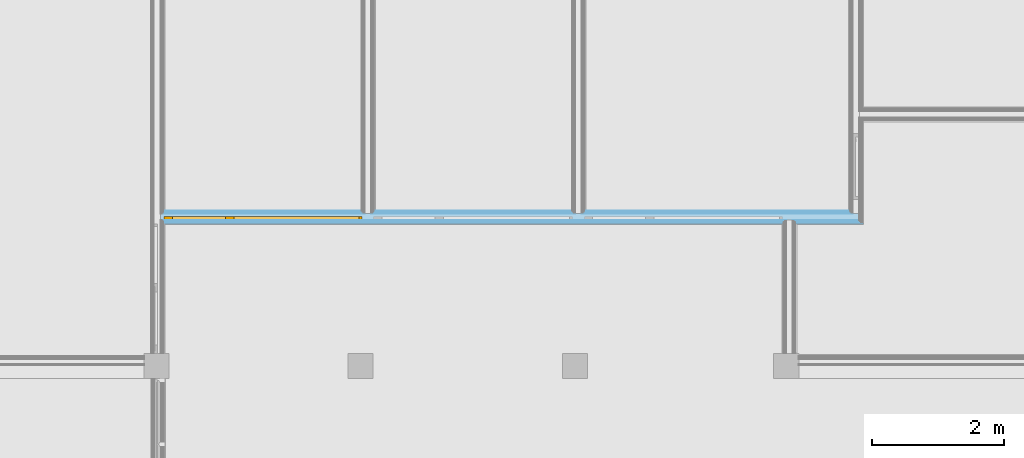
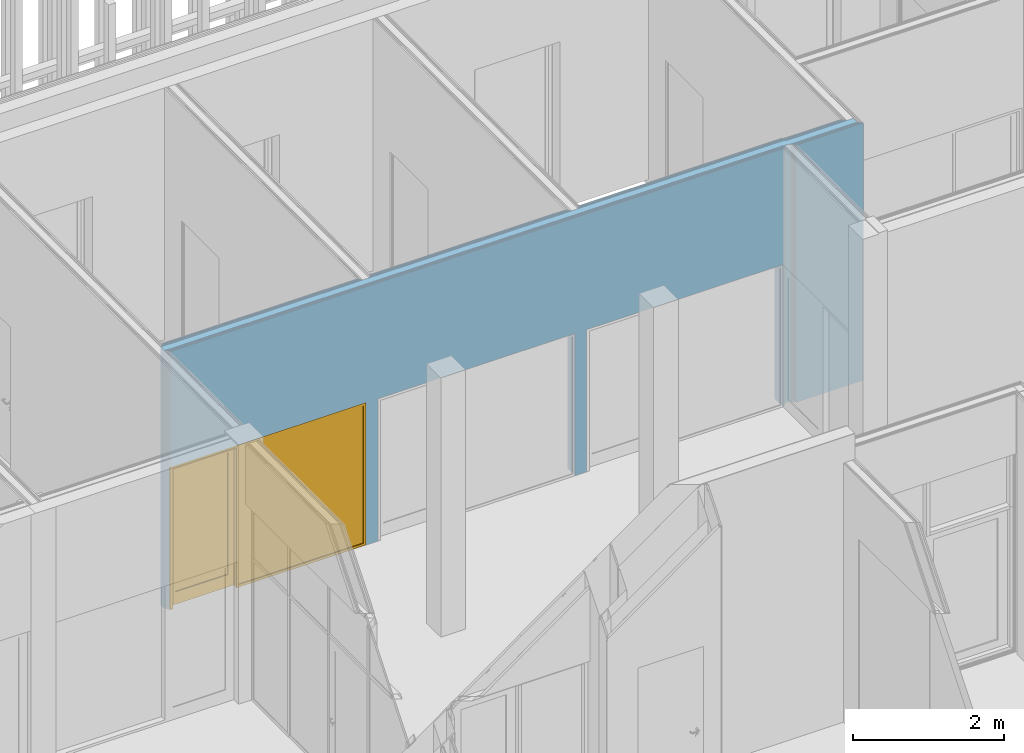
# One storey, part 218 of 260: 1 door, 3 openings, 1 element without a shape of its own, plus 9 elements that do not belong to this part.
"""IFC2X3 building model written with IfcOpenShell, lengths in millimetres."""

from ifc_helpers import new_model, entity, si_unit, converted_unit, derived_unit, money_unit, direction, frame, origin_with_axes, place, context, subcontext, project, spatial, open_shell, faceted_brep, surface_model, material, type_object, element, fill, aggregate, save


model = new_model("IFC2X3")

# Units and contexts
model_context = context("Model", 3, precision=0.01, world=origin_with_axes(), true_north=direction((0.0, 1.0)))
body_context = subcontext(model_context, "Body", "Model", "MODEL_VIEW")
ifc_project = project(units=[si_unit("LENGTHUNIT", "METRE", prefix="MILLI"), si_unit("AREAUNIT", "SQUARE_METRE"), si_unit("VOLUMEUNIT", "CUBIC_METRE"), converted_unit("PLANEANGLEUNIT", "DEGREE", entity("IfcPlaneAngleMeasure", 0.0174532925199), si_unit("PLANEANGLEUNIT", "RADIAN"), dimensions=[0, 0, 0, 0, 0, 0, 0]), money_unit("EUR"), converted_unit("TIMEUNIT", "Year", entity("IfcTimeMeasure", 31556926.0), si_unit("TIMEUNIT", "SECOND"), dimensions=[0, 0, 1, 0, 0, 0, 0]), si_unit("MASSUNIT", "GRAM", prefix="KILO"), si_unit("THERMODYNAMICTEMPERATUREUNIT", "DEGREE_CELSIUS"), si_unit("LUMINOUSINTENSITYUNIT", "LUMEN"), si_unit("ENERGYUNIT", "JOULE", prefix="MEGA"), derived_unit("THERMALCONDUCTANCEUNIT", [(si_unit("POWERUNIT", "WATT"), 1), (si_unit("LENGTHUNIT", "METRE"), -1), (si_unit("THERMODYNAMICTEMPERATUREUNIT", "KELVIN"), -1)]), derived_unit("SPECIFICHEATCAPACITYUNIT", [(si_unit("ENERGYUNIT", "JOULE"), 1), (si_unit("MASSUNIT", "GRAM", prefix="KILO"), -1), (si_unit("THERMODYNAMICTEMPERATUREUNIT", "KELVIN"), -1)]), derived_unit("MASSDENSITYUNIT", [(si_unit("MASSUNIT", "GRAM", prefix="KILO"), 1), (si_unit("VOLUMEUNIT", "CUBIC_METRE"), -1)])], contexts=[model_context])

# Site, building, storey
site_placement = place(None, origin_with_axes())
site = spatial("IfcSite", under=ifc_project, at=site_placement, Name="Kolde pst 67a", CompositionType="ELEMENT")
building_placement = place(site_placement, origin_with_axes())
building = spatial("IfcBuilding", under=site, at=building_placement, Name="Riigigümnaasium", CompositionType="ELEMENT")
storey_placement = place(building_placement, origin_with_axes())
storey = spatial("IfcBuildingStorey", under=building, at=storey_placement, Name="1. korrus", CompositionType="ELEMENT", Elevation=0.0)

# Door
door_style = type_object("IfcDoorStyle", Name="Door with Sidelight on Side 2 25", ConstructionType="NOTDEFINED", OperationType="SINGLE_SWING_LEFT", ParameterTakesPrecedence=False, Sizeable=False)
wall_placement = place(storey_placement, frame((66950.0301551, 30929.9996719, 0.0), z_axis=(0.0, 0.0, 1.0), x_axis=(1.0, 0.0, 0.0)))
opening_3_placement = place(wall_placement, frame((1712.0911448, 0.0, 0.0), z_axis=(0.0, 0.0, 1.0), x_axis=(1.0, 0.0, 0.0)))
door_placement = place(opening_3_placement, frame((-1498.09113464, 0.0, 0.0), z_axis=(0.0, 0.0, 1.0), x_axis=(1.0, 0.0, 0.0)))
door = element("IfcDoor", 1, at=door_placement, inside=storey, type_object=door_style, Name="Siseuks", ObjectType="DOOR", OverallHeight=2300.0, OverallWidth=2996.18, context=body_context, shape_type="SurfaceModel", body=[
    faceted_brep([(2996.18226927, 115.0, 0.0), (2996.18226927, 0.0, 0.0), (2956.18226927, 0.0, 0.0), (2956.18226927, 115.0, 0.0), (2996.18226927, 115.0, 2260.0), (2996.18226927, 0.0, 2260.0), (2956.18226927, 0.0, 2260.0), (2956.18226927, 0.0, 40.0), (2956.18226927, 115.0, 40.0), (2956.18226927, 115.0, 2260.0)], [[[0, 1, 2, 3]], [[4, 5, 1, 0]], [[1, 5, 6, 7, 2]], [[3, 2, 7, 8]], [[0, 3, 8, 9, 4]], [[9, 6, 5, 4]], [[8, 7, 6, 9]]]),
    faceted_brep([(1016.0, 75.0, 0.0), (1016.0, 0.0, 0.0), (1016.0, 0.0, 2260.0), (1016.0, 75.0, 2260.0), (1028.0, 75.0, 0.0), (1028.0, 115.0, 0.0), (1056.0, 115.0, 0.0), (1056.0, 0.0, 0.0), (1056.0, 0.0, 40.0), (1056.0, 0.0, 2260.0), (1028.0, 75.0, 2260.0), (1056.0, 115.0, 2260.0), (1028.0, 115.0, 2260.0), (1056.0, 115.0, 40.0)], [[[0, 1, 2, 3]], [[4, 5, 6, 7, 1, 0]], [[7, 8, 9, 2, 1]], [[10, 3, 2, 9, 11, 12]], [[10, 4, 0, 3]], [[12, 5, 4, 10]], [[12, 11, 13, 6, 5]], [[6, 13, 8, 7]], [[13, 11, 9, 8]]]),
    faceted_brep([(2956.18226927, 115.0, 40.0), (2956.18226927, 0.0, 40.0), (2956.18226927, 0.0, 0.0), (2956.18226927, 115.0, 0.0), (1056.0, 115.0, 40.0), (1056.0, 0.0, 40.0), (1056.0, 0.0, 0.0), (1056.0, 115.0, 0.0)], [[[0, 1, 2, 3]], [[4, 5, 1, 0]], [[1, 5, 6, 2]], [[3, 2, 6, 7]], [[0, 3, 7, 4]], [[7, 6, 5, 4]]]),
    faceted_brep([(28.0, 75.0, 2260.0), (28.0, 115.0, 2260.0), (0.0, 115.0, 2260.0), (0.0, 0.0, 2260.0), (40.0, 0.0, 2260.0), (40.0, 75.0, 2260.0), (28.0, 75.0, 0.0), (28.0, 115.0, 0.0), (0.0, 115.0, 0.0), (0.0, 0.0, 0.0), (40.0, 0.0, 0.0), (40.0, 75.0, 0.0)], [[[0, 1, 2, 3, 4, 5]], [[0, 6, 7, 1]], [[7, 8, 2, 1]], [[2, 8, 9, 3]], [[3, 9, 10, 4]], [[5, 4, 10, 11]], [[5, 11, 6, 0]], [[6, 11, 10, 9, 8, 7]]]),
    faceted_brep([(1028.0, 115.0, 2272.0), (28.0, 115.0, 2272.0), (28.0, 115.0, 2260.0), (0.0, 115.0, 2260.0), (0.0, 115.0, 2300.0), (2996.18226927, 115.0, 2300.0), (2996.18226927, 115.0, 2260.0), (2956.18226927, 115.0, 2260.0), (1056.0, 115.0, 2260.0), (1028.0, 115.0, 2260.0), (1028.0, 75.0, 2272.0), (28.0, 75.0, 2272.0), (28.0, 75.0, 2260.0), (40.0, 75.0, 2260.0), (40.0, 0.0, 2260.0), (0.0, 0.0, 2260.0), (0.0, 0.0, 2300.0), (2996.18226927, 0.0, 2300.0), (2996.18226927, 0.0, 2260.0), (2956.18226927, 0.0, 2260.0), (1056.0, 0.0, 2260.0), (1028.0, 75.0, 2260.0), (1016.0, 0.0, 2260.0)], [[[0, 1, 2, 3, 4, 5, 6, 7, 8, 9]], [[0, 10, 11, 1]], [[1, 11, 12, 2]], [[12, 13, 14, 15, 3, 2]], [[4, 3, 15, 16]], [[5, 4, 16, 17]], [[6, 5, 17, 18]], [[7, 6, 18, 19]], [[8, 7, 19, 20]], [[21, 9, 8, 20, 22, 14, 13]], [[9, 21, 10, 0]], [[12, 11, 10, 21, 13]], [[14, 22, 20, 19, 18, 17, 16, 15]]]),
    faceted_brep([(28.0, 115.0, 200.0), (128.0, 115.0, 200.0), (128.0, 75.0, 200.0), (28.0, 75.0, 200.0), (28.0, 115.0, 2172.0), (128.0, 115.0, 2172.0), (128.0, 75.0, 2172.0), (28.0, 75.0, 2172.0)], [[[0, 1, 2, 3]], [[0, 4, 5, 1]], [[1, 5, 6, 2]], [[3, 2, 6, 7]], [[4, 0, 3, 7]], [[5, 4, 7, 6]]]),
    faceted_brep([(1028.0, 115.0, 200.0), (1028.0, 115.0, 2172.0), (1028.0, 75.0, 2172.0), (1028.0, 75.0, 200.0), (928.0, 115.0, 200.0), (928.0, 115.0, 2172.0), (928.0, 75.0, 2172.0), (928.0, 75.0, 200.0)], [[[0, 1, 2, 3]], [[0, 4, 5, 1]], [[1, 5, 6, 2]], [[3, 2, 6, 7]], [[4, 0, 3, 7]], [[5, 4, 7, 6]]]),
    faceted_brep([(28.0, 115.0, 0.0), (1028.0, 115.0, 0.0), (1028.0, 75.0, 0.0), (28.0, 75.0, 0.0), (28.0, 115.0, 200.0), (128.0, 115.0, 200.0), (928.0, 115.0, 200.0), (1028.0, 115.0, 200.0), (1028.0, 75.0, 200.0), (928.0, 75.0, 200.0), (128.0, 75.0, 200.0), (28.0, 75.0, 200.0)], [[[0, 1, 2, 3]], [[0, 4, 5, 6, 7, 1]], [[1, 7, 8, 2]], [[3, 2, 8, 9, 10, 11]], [[4, 0, 3, 11]], [[5, 4, 11, 10]], [[6, 5, 10, 9]], [[7, 6, 9, 8]]]),
    faceted_brep([(28.0, 115.0, 2272.0), (28.0, 115.0, 2172.0), (28.0, 75.0, 2172.0), (28.0, 75.0, 2272.0), (1028.0, 115.0, 2272.0), (1028.0, 115.0, 2172.0), (928.0, 115.0, 2172.0), (128.0, 115.0, 2172.0), (128.0, 75.0, 2172.0), (928.0, 75.0, 2172.0), (1028.0, 75.0, 2172.0), (1028.0, 75.0, 2272.0)], [[[0, 1, 2, 3]], [[0, 4, 5, 6, 7, 1]], [[1, 7, 8, 2]], [[3, 2, 8, 9, 10, 11]], [[4, 0, 3, 11]], [[5, 4, 11, 10]], [[6, 5, 10, 9]], [[7, 6, 9, 8]]]),
    surface_model("IfcShellBasedSurfaceModel", [(128.0, 101.0, 200.0), (128.0, 101.0, 2172.0), (928.0, 101.0, 2172.0), (928.0, 101.0, 200.0)], [open_shell([[[0, 1, 2, 3]]])]),
    surface_model("IfcShellBasedSurfaceModel", [(128.0, 89.0, 200.0), (928.0, 89.0, 200.0), (928.0, 89.0, 2172.0), (128.0, 89.0, 2172.0)], [open_shell([[[0, 1, 2, 3]]])]),
    surface_model("IfcShellBasedSurfaceModel", [(2956.18226927, 24.0, 40.0), (1056.0, 24.0, 40.0), (1056.0, 24.0, 2260.0), (2956.18226927, 24.0, 2260.0)], [open_shell([[[0, 1, 2, 3]]])]),
    surface_model("IfcShellBasedSurfaceModel", [(2956.18226927, 12.0, 40.0), (2956.18226927, 12.0, 2260.0), (1056.0, 12.0, 2260.0), (1056.0, 12.0, 40.0)], [open_shell([[[0, 1, 2, 3]]])]),
])

# Wall, openings
wall_type = type_object("IfcWallType", Name="SS-PK-10/1_vill100+2dold 220", PredefinedType="NOTDEFINED")
wall = element("IfcWall", 2, at=wall_placement, inside=storey, type_object=wall_type, Name="Sisesein")
opening_1_placement = place(wall_placement, frame((8079.97064144, 0.0, 0.0), z_axis=(0.0, 0.0, 1.0), x_axis=(1.0, 0.0, 0.0)))
element("IfcOpeningElement", 3, at=opening_1_placement, cuts=wall, Name="Siseuks", context=body_context, shape_type="Brep", body=[
    faceted_brep([(-1500.0012665, -440.0, 0.0), (-1500.0012665, -440.0, 2300.0), (-1500.0012665, 220.0, 2300.0), (-1500.0012665, 220.0, 0.0), (1500.0012665, -440.0, 0.0), (1500.0012665, -440.0, 2300.0), (1500.0012665, 220.0, 2300.0), (1500.0012665, 220.0, 0.0)], [[[0, 1, 2, 3]], [[0, 4, 5, 1]], [[1, 5, 6, 2]], [[3, 2, 6, 7]], [[4, 0, 3, 7]], [[5, 4, 7, 6]]]),
])
opening_2_placement = place(wall_placement, frame((4894.50544559, 0.0, 0.0), z_axis=(0.0, 0.0, 1.0), x_axis=(1.0, 0.0, 0.0)))
element("IfcOpeningElement", 4, at=opening_2_placement, cuts=wall, Name="Siseuks", context=body_context, shape_type="Brep", body=[
    faceted_brep([(-1505.46392935, -440.0, 0.0), (-1505.46392935, -440.0, 2300.0), (-1505.46392935, 220.0, 2300.0), (-1505.46392935, 220.0, 0.0), (1505.46392935, -440.0, 0.0), (1505.46392935, -440.0, 2300.0), (1505.46392935, 220.0, 2300.0), (1505.46392935, 220.0, 0.0)], [[[0, 1, 2, 3]], [[0, 4, 5, 1]], [[1, 5, 6, 2]], [[3, 2, 6, 7]], [[4, 0, 3, 7]], [[5, 4, 7, 6]]]),
])
opening_3 = element("IfcOpeningElement", 5, at=opening_3_placement, cuts=wall, Name="Siseuks", context=body_context, shape_type="Brep", body=[
    faceted_brep([(-1498.09113464, -440.0, 0.0), (-1498.09113464, -440.0, 2300.0), (-1498.09113464, 220.0, 2300.0), (-1498.09113464, 220.0, 0.0), (1498.09113464, -440.0, 0.0), (1498.09113464, -440.0, 2300.0), (1498.09113464, 220.0, 2300.0), (1498.09113464, 220.0, 0.0)], [[[0, 1, 2, 3]], [[0, 4, 5, 1]], [[1, 5, 6, 2]], [[3, 2, 6, 7]], [[4, 0, 3, 7]], [[5, 4, 7, 6]]]),
])

fill(opening_3, door)

# Building element part
ifc_material_1 = material(Name="_VIIMISTLUSKIHT - Dold plaat vastavalt SA osale")
building_element_part_1_placement = place(wall_placement, origin_with_axes())
building_element_part_1 = element("IfcBuildingElementPart", 6, at=building_element_part_1_placement, material=ifc_material_1, Name="_VIIMISTLUSKIHT - Dold plaat vastavalt SA osale", context=body_context, shape_type="Brep", body=[
    faceted_brep([(3210.18227943, 200.0, 2300.0), (3210.18227943, 220.0, 2300.0), (3210.18227943, 220.0, 4170.0), (3210.18227943, 200.0, 4170.0), (220.0, 220.0, 2300.0), (220.0, 200.0, 2300.0), (220.0, 220.0, 4170.0), (220.0, 200.0, 4170.0)], [[[0, 1, 2, 3]], [[4, 1, 0, 5]], [[1, 4, 6, 2]], [[2, 6, 7, 3]], [[5, 0, 3, 7]], [[4, 5, 7, 6]]]),
    faceted_brep([(6399.96937494, 200.0, 2300.0), (6399.96937494, 220.0, 2300.0), (6399.96937494, 220.0, 4170.0), (6399.96937494, 200.0, 4170.0), (3390.18227943, 220.0, 2300.0), (3390.18227943, 200.0, 2300.0), (3390.18227943, 220.0, 4170.0), (3390.18227943, 200.0, 4170.0)], [[[0, 1, 2, 3]], [[4, 1, 0, 5]], [[1, 4, 6, 2]], [[2, 6, 7, 3]], [[5, 0, 3, 7]], [[4, 5, 7, 6]]]),
    faceted_brep([(9579.97190795, 220.0, 2300.0), (6579.96937494, 220.0, 2300.0), (6579.96937494, 220.0, 4170.0), (9699.97190795, 220.0, 4170.0), (9699.97190795, 220.0, 4156.9), (10609.9611433, 220.0, 4156.9), (10609.9611433, 220.0, 0.0), (9579.97190795, 220.0, 0.0), (9579.97190795, 200.0, 2300.0), (6579.96937494, 200.0, 2300.0), (6579.96937494, 200.0, 4170.0), (9699.97190795, 200.0, 4170.0), (9699.97190795, 200.0, 4156.9), (10609.9611433, 200.0, 4156.9), (10609.9611433, 200.0, 0.0), (9579.97190795, 200.0, 0.0)], [[[0, 1, 2, 3, 4, 5, 6, 7]], [[1, 0, 8, 9]], [[1, 9, 10, 2]], [[3, 2, 10, 11]], [[3, 11, 12, 4]], [[5, 4, 12, 13]], [[13, 14, 6, 5]], [[15, 7, 6, 14]], [[0, 7, 15, 8]], [[8, 15, 14, 13, 12, 11, 10, 9]]]),
])

ifc_material_2 = material(Name="_KARKASS - eriprofiilkinnitus vastavalt sisemisele plaatviimistlusele")
building_element_part_2_placement = place(wall_placement, origin_with_axes())
building_element_part_2 = element("IfcBuildingElementPart", 7, at=building_element_part_2_placement, material=ifc_material_2, Name="_KARKASS - eriprofiilkinnitus vastavalt sisemisele plaatviimistlusele", context=body_context, shape_type="Brep", body=[
    faceted_brep([(214.000010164, 200.0, 2300.0), (214.000010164, 200.0, 0.0), (200.0, 200.0, 0.0), (200.0, 200.0, 4170.0), (3220.18227943, 200.0, 4170.0), (3220.18227943, 200.0, 0.0), (3210.18227943, 200.0, 0.0), (3210.18227943, 200.0, 2300.0), (214.000010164, 190.0, 2300.0), (214.000010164, 190.0, 0.0), (200.0, 190.0, 0.0), (200.0, 190.0, 4170.0), (3220.18227943, 190.0, 4170.0), (3220.18227943, 190.0, 0.0), (3210.18227943, 190.0, 0.0), (3210.18227943, 190.0, 2300.0)], [[[0, 1, 2, 3, 4, 5, 6, 7]], [[1, 0, 8, 9]], [[1, 9, 10, 2]], [[3, 2, 10, 11]], [[4, 3, 11, 12]], [[12, 13, 5, 4]], [[14, 6, 5, 13]], [[7, 6, 14, 15]], [[0, 7, 15, 8]], [[15, 14, 13, 12, 11, 10, 9, 8]]]),
    faceted_brep([(3389.04151625, 200.0, 2300.0), (3389.04151625, 200.0, 0.0), (3380.18227943, 200.0, 0.0), (3380.18227943, 200.0, 4170.0), (6409.96937494, 200.0, 4170.0), (6409.96937494, 200.0, 0.0), (6399.96937494, 200.0, 0.0), (6399.96937494, 200.0, 2300.0), (3389.04151625, 190.0, 2300.0), (3389.04151625, 190.0, 0.0), (3380.18227943, 190.0, 0.0), (3380.18227943, 190.0, 4170.0), (6409.96937494, 190.0, 4170.0), (6409.96937494, 190.0, 0.0), (6399.96937494, 190.0, 0.0), (6399.96937494, 190.0, 2300.0)], [[[0, 1, 2, 3, 4, 5, 6, 7]], [[1, 0, 8, 9]], [[1, 9, 10, 2]], [[3, 2, 10, 11]], [[4, 3, 11, 12]], [[12, 13, 5, 4]], [[14, 6, 5, 13]], [[7, 6, 14, 15]], [[0, 7, 15, 8]], [[15, 14, 13, 12, 11, 10, 9, 8]]]),
    faceted_brep([(6579.96937494, 200.0, 2300.0), (6579.96937494, 200.0, 0.0), (6569.96937494, 200.0, 0.0), (6569.96937494, 200.0, 4170.0), (9699.97190795, 200.0, 4170.0), (9699.97190795, 200.0, 4156.9), (10619.9611433, 200.0, 4156.9), (10619.9611433, 200.0, 0.0), (9579.97190795, 200.0, 0.0), (9579.97190795, 200.0, 2300.0), (6579.96937494, 190.0, 2300.0), (6579.96937494, 190.0, 0.0), (6569.96937494, 190.0, 0.0), (6569.96937494, 190.0, 4170.0), (9699.97190795, 190.0, 4170.0), (9699.97190795, 190.0, 4156.9), (10619.9611433, 190.0, 4156.9), (10619.9611433, 190.0, 0.0), (9579.97190795, 190.0, 0.0), (9579.97190795, 190.0, 2300.0)], [[[0, 1, 2, 3, 4, 5, 6, 7, 8, 9]], [[1, 0, 10, 11]], [[1, 11, 12, 2]], [[3, 2, 12, 13]], [[4, 3, 13, 14]], [[4, 14, 15, 5]], [[6, 5, 15, 16]], [[16, 17, 7, 6]], [[18, 8, 7, 17]], [[9, 8, 18, 19]], [[0, 9, 19, 10]], [[19, 18, 17, 16, 15, 14, 13, 12, 11, 10]]]),
])

ifc_material_3 = material(Name="_PLAATMATERJAL - tuletõkkekipsplaat, Knauf Red GKF või samaväärne")
building_element_part_3_placement = place(wall_placement, origin_with_axes())
building_element_part_3 = element("IfcBuildingElementPart", 8, at=building_element_part_3_placement, material=ifc_material_3, Name="_PLAATMATERJAL - tuletõkkekipsplaat, Knauf Red GKF või samaväärne", context=body_context, shape_type="Brep", body=[
    faceted_brep([(214.000010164, 190.0, 2300.0), (214.000010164, 190.0, 0.0), (190.0, 190.0, 0.0), (190.0, 190.0, 4170.0), (3235.18227943, 190.0, 4170.0), (3235.18227943, 190.0, 0.0), (3210.18227943, 190.0, 0.0), (3210.18227943, 190.0, 2300.0), (214.000010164, 175.0, 2300.0), (214.000010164, 175.0, 0.0), (190.0, 175.0, 0.0), (190.0, 175.0, 4170.0), (3235.18227943, 175.0, 4170.0), (3235.18227943, 175.0, 0.0), (3210.18227943, 175.0, 0.0), (3210.18227943, 175.0, 2300.0)], [[[0, 1, 2, 3, 4, 5, 6, 7]], [[1, 0, 8, 9]], [[1, 9, 10, 2]], [[3, 2, 10, 11]], [[4, 3, 11, 12]], [[12, 13, 5, 4]], [[14, 6, 5, 13]], [[7, 6, 14, 15]], [[0, 7, 15, 8]], [[15, 14, 13, 12, 11, 10, 9, 8]]]),
    faceted_brep([(3389.04151625, 190.0, 2300.0), (3389.04151625, 190.0, 0.0), (3365.18227943, 190.0, 0.0), (3365.18227943, 190.0, 4170.0), (6424.96937494, 190.0, 4170.0), (6424.96937494, 190.0, 0.0), (6399.96937494, 190.0, 0.0), (6399.96937494, 190.0, 2300.0), (3389.04151625, 175.0, 2300.0), (3389.04151625, 175.0, 0.0), (3365.18227943, 175.0, 0.0), (3365.18227943, 175.0, 4170.0), (6424.96937494, 175.0, 4170.0), (6424.96937494, 175.0, 0.0), (6399.96937494, 175.0, 0.0), (6399.96937494, 175.0, 2300.0)], [[[0, 1, 2, 3, 4, 5, 6, 7]], [[1, 0, 8, 9]], [[1, 9, 10, 2]], [[3, 2, 10, 11]], [[4, 3, 11, 12]], [[12, 13, 5, 4]], [[14, 6, 5, 13]], [[7, 6, 14, 15]], [[0, 7, 15, 8]], [[15, 14, 13, 12, 11, 10, 9, 8]]]),
    faceted_brep([(6579.96937494, 190.0, 2300.0), (6579.96937494, 190.0, 0.0), (6554.96937494, 190.0, 0.0), (6554.96937494, 190.0, 4170.0), (9699.97190795, 190.0, 4170.0), (9699.97190795, 190.0, 4156.9), (10634.9611433, 190.0, 4156.9), (10634.9611433, 190.0, 0.0), (9579.97190795, 190.0, 0.0), (9579.97190795, 190.0, 2300.0), (6579.96937494, 175.0, 2300.0), (6579.96937494, 175.0, 0.0), (6554.96937494, 175.0, 0.0), (6554.96937494, 175.0, 4170.0), (9699.97190795, 175.0, 4170.0), (9699.97190795, 175.0, 4156.9), (10634.9611433, 175.0, 4156.9), (10634.9611433, 175.0, 0.0), (9579.97190795, 175.0, 0.0), (9579.97190795, 175.0, 2300.0)], [[[0, 1, 2, 3, 4, 5, 6, 7, 8, 9]], [[1, 0, 10, 11]], [[1, 11, 12, 2]], [[3, 2, 12, 13]], [[4, 3, 13, 14]], [[4, 14, 15, 5]], [[6, 5, 15, 16]], [[16, 17, 7, 6]], [[18, 8, 7, 17]], [[9, 8, 18, 19]], [[0, 9, 19, 10]], [[19, 18, 17, 16, 15, 14, 13, 12, 11, 10]]]),
])

building_element_part_4_placement = place(wall_placement, origin_with_axes())
building_element_part_4 = element("IfcBuildingElementPart", 9, at=building_element_part_4_placement, material=ifc_material_3, Name="_PLAATMATERJAL - tuletõkkekipsplaat, Knauf Red GKF või samaväärne", context=body_context, shape_type="Brep", body=[
    faceted_brep([(214.000010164, 175.0, 2300.0), (214.000010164, 175.0, 0.0), (175.0, 175.0, 0.0), (175.0, 175.0, 4170.0), (3250.18227943, 175.0, 4170.0), (3250.18227943, 175.0, 0.0), (3210.18227943, 175.0, 0.0), (3210.18227943, 175.0, 2300.0), (214.000010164, 160.0, 2300.0), (214.000010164, 160.0, 0.0), (175.0, 160.0, 0.0), (175.0, 160.0, 4170.0), (3250.18227943, 160.0, 4170.0), (3250.18227943, 160.0, 0.0), (3210.18227943, 160.0, 0.0), (3210.18227943, 160.0, 2300.0)], [[[0, 1, 2, 3, 4, 5, 6, 7]], [[1, 0, 8, 9]], [[1, 9, 10, 2]], [[3, 2, 10, 11]], [[4, 3, 11, 12]], [[12, 13, 5, 4]], [[14, 6, 5, 13]], [[7, 6, 14, 15]], [[0, 7, 15, 8]], [[15, 14, 13, 12, 11, 10, 9, 8]]]),
    faceted_brep([(3389.04151625, 175.0, 2300.0), (3389.04151625, 175.0, 0.0), (3350.18227943, 175.0, 0.0), (3350.18227943, 175.0, 4170.0), (6439.96937494, 175.0, 4170.0), (6439.96937494, 175.0, 0.0), (6399.96937494, 175.0, 0.0), (6399.96937494, 175.0, 2300.0), (3389.04151625, 160.0, 2300.0), (3389.04151625, 160.0, 0.0), (3350.18227943, 160.0, 0.0), (3350.18227943, 160.0, 4170.0), (6439.96937494, 160.0, 4170.0), (6439.96937494, 160.0, 0.0), (6399.96937494, 160.0, 0.0), (6399.96937494, 160.0, 2300.0)], [[[0, 1, 2, 3, 4, 5, 6, 7]], [[1, 0, 8, 9]], [[1, 9, 10, 2]], [[3, 2, 10, 11]], [[4, 3, 11, 12]], [[12, 13, 5, 4]], [[14, 6, 5, 13]], [[7, 6, 14, 15]], [[0, 7, 15, 8]], [[15, 14, 13, 12, 11, 10, 9, 8]]]),
    faceted_brep([(6579.96937494, 175.0, 2300.0), (6579.96937494, 175.0, 0.0), (6539.96937494, 175.0, 0.0), (6539.96937494, 175.0, 4170.0), (9699.97190795, 175.0, 4170.0), (9699.97190795, 175.0, 4156.9), (10649.9611433, 175.0, 4156.9), (10649.9611433, 175.0, 0.0), (9579.97190795, 175.0, 0.0), (9579.97190795, 175.0, 2300.0), (6579.96937494, 160.0, 2300.0), (6579.96937494, 160.0, 0.0), (6539.96937494, 160.0, 0.0), (6539.96937494, 160.0, 4170.0), (9699.97190795, 160.0, 4170.0), (9699.97190795, 160.0, 4156.9), (10649.9611433, 160.0, 4156.9), (10649.9611433, 160.0, 0.0), (9579.97190795, 160.0, 0.0), (9579.97190795, 160.0, 2300.0)], [[[0, 1, 2, 3, 4, 5, 6, 7, 8, 9]], [[1, 0, 10, 11]], [[1, 11, 12, 2]], [[3, 2, 12, 13]], [[4, 3, 13, 14]], [[4, 14, 15, 5]], [[6, 5, 15, 16]], [[16, 17, 7, 6]], [[18, 8, 7, 17]], [[9, 8, 18, 19]], [[0, 9, 19, 10]], [[19, 18, 17, 16, 15, 14, 13, 12, 11, 10]]]),
])

ifc_material_4 = material(Name="_KARKASS - puitpruss 100x50mm vertikaalne, samm 600mm, vahel mineraalvill, helineeldetegur αw = 1.0, ISOVER ACOUSTIC 100mm või samaväärne")
building_element_part_5_placement = place(wall_placement, origin_with_axes())
building_element_part_5 = element("IfcBuildingElementPart", 10, at=building_element_part_5_placement, material=ifc_material_4, Name="_KARKASS - puitpruss 100x50mm vertikaalne, samm 600mm, vahel mineraalvill, helineeldetegur αw = 1.0, ISOVER ACOUSTIC 100mm või samaväärne", context=body_context, shape_type="Brep", body=[
    faceted_brep([(214.000010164, 160.0, 2300.0), (214.000010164, 160.0, 0.0), (160.0, 160.0, 0.0), (160.0, 160.0, 4170.0), (9699.97190795, 160.0, 4170.0), (9699.97190795, 160.0, 4156.9), (10749.9611433, 160.0, 4156.9), (10749.9611433, 160.0, 0.0), (9579.97190795, 160.0, 0.0), (9579.97190795, 160.0, 2300.0), (6579.96937494, 160.0, 2300.0), (6579.96937494, 160.0, 0.0), (6399.96937494, 160.0, 0.0), (6399.96937494, 160.0, 2300.0), (3389.04151625, 160.0, 2300.0), (3389.04151625, 160.0, 0.0), (3210.18227943, 160.0, 0.0), (3210.18227943, 160.0, 2300.0), (214.000010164, 60.0, 2300.0), (214.000010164, 60.0, 0.0), (160.0, 60.0, 0.0), (160.0, 60.0, 4170.0), (9699.97190795, 60.0, 4170.0), (9699.97190795, 60.0, 4156.9), (10749.9611433, 60.0, 4156.9), (10749.9611433, 60.0, 0.0), (9579.97190795, 60.0, 0.0), (9579.97190795, 60.0, 2300.0), (6579.96937494, 60.0, 2300.0), (6579.96937494, 60.0, 0.0), (6399.96937494, 60.0, 0.0), (6399.96937494, 60.0, 2300.0), (3389.04151625, 60.0, 2300.0), (3389.04151625, 60.0, 0.0), (3210.18227943, 60.0, 0.0), (3210.18227943, 60.0, 2300.0)], [[[0, 1, 2, 3, 4, 5, 6, 7, 8, 9, 10, 11, 12, 13, 14, 15, 16, 17]], [[1, 0, 18, 19]], [[1, 19, 20, 2]], [[20, 21, 3, 2]], [[21, 22, 4, 3]], [[23, 5, 4, 22]], [[23, 24, 6, 5]], [[7, 6, 24, 25]], [[7, 25, 26, 8]], [[26, 27, 9, 8]], [[27, 28, 10, 9]], [[28, 29, 11, 10]], [[12, 11, 29, 30]], [[12, 30, 31, 13]], [[13, 31, 32, 14]], [[14, 32, 33, 15]], [[34, 16, 15, 33]], [[17, 16, 34, 35]], [[0, 17, 35, 18]], [[35, 34, 33, 32, 31, 30, 29, 28, 27, 26, 25, 24, 23, 22, 21, 20, 19, 18]]]),
])

building_element_part_6_placement = place(wall_placement, origin_with_axes())
building_element_part_6 = element("IfcBuildingElementPart", 11, at=building_element_part_6_placement, material=ifc_material_3, Name="_PLAATMATERJAL - tuletõkkekipsplaat, Knauf Red GKF või samaväärne", context=body_context, shape_type="Brep", body=[
    faceted_brep([(9739.97190795, 60.0, 4156.9), (10764.9611433, 60.0, 4156.9), (10764.9611433, 60.0, 0.0), (9739.97190795, 60.0, 0.0), (10764.9611433, 45.0, 4156.9), (9739.97190795, 45.0, 4156.9), (10764.9611433, 45.0, 0.0), (9739.97190795, 45.0, 0.0)], [[[0, 1, 2, 3]], [[4, 1, 0, 5]], [[1, 4, 6, 2]], [[2, 6, 7, 3]], [[5, 0, 3, 7]], [[4, 5, 7, 6]]]),
    faceted_brep([(214.000010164, 60.0, 2300.0), (214.000010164, 60.0, 0.0), (175.0, 60.0, 0.0), (175.0, 60.0, 4170.0), (9639.97190795, 60.0, 4170.0), (9639.97190795, 60.0, 0.0), (9579.97190795, 60.0, 0.0), (9579.97190795, 60.0, 2300.0), (6579.96937494, 60.0, 2300.0), (6579.96937494, 60.0, 0.0), (6399.96937494, 60.0, 0.0), (6399.96937494, 60.0, 2300.0), (3389.04151625, 60.0, 2300.0), (3389.04151625, 60.0, 0.0), (3210.18227943, 60.0, 0.0), (3210.18227943, 60.0, 2300.0), (214.000010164, 45.0, 2300.0), (214.000010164, 45.0, 0.0), (175.0, 45.0, 0.0), (175.0, 45.0, 4170.0), (9639.97190795, 45.0, 4170.0), (9639.97190795, 45.0, 0.0), (9579.97190795, 45.0, 0.0), (9579.97190795, 45.0, 2300.0), (6579.96937494, 45.0, 2300.0), (6579.96937494, 45.0, 0.0), (6399.96937494, 45.0, 0.0), (6399.96937494, 45.0, 2300.0), (3389.04151625, 45.0, 2300.0), (3389.04151625, 45.0, 0.0), (3210.18227943, 45.0, 0.0), (3210.18227943, 45.0, 2300.0)], [[[0, 1, 2, 3, 4, 5, 6, 7, 8, 9, 10, 11, 12, 13, 14, 15]], [[1, 0, 16, 17]], [[1, 17, 18, 2]], [[18, 19, 3, 2]], [[19, 20, 4, 3]], [[5, 4, 20, 21]], [[5, 21, 22, 6]], [[22, 23, 7, 6]], [[23, 24, 8, 7]], [[24, 25, 9, 8]], [[10, 9, 25, 26]], [[10, 26, 27, 11]], [[11, 27, 28, 12]], [[12, 28, 29, 13]], [[30, 14, 13, 29]], [[15, 14, 30, 31]], [[0, 15, 31, 16]], [[31, 30, 29, 28, 27, 26, 25, 24, 23, 22, 21, 20, 19, 18, 17, 16]]]),
])

building_element_part_7_placement = place(wall_placement, origin_with_axes())
building_element_part_7 = element("IfcBuildingElementPart", 12, at=building_element_part_7_placement, material=ifc_material_3, Name="_PLAATMATERJAL - tuletõkkekipsplaat, Knauf Red GKF või samaväärne", context=body_context, shape_type="Brep", body=[
    faceted_brep([(9754.97190795, 45.0, 4156.9), (10779.9611433, 45.0, 4156.9), (10779.9611433, 45.0, 0.0), (9754.97190795, 45.0, 0.0), (10779.9611433, 30.0, 4156.9), (9754.97190795, 30.0, 4156.9), (10779.9611433, 30.0, 0.0), (9754.97190795, 30.0, 0.0)], [[[0, 1, 2, 3]], [[4, 1, 0, 5]], [[1, 4, 6, 2]], [[2, 6, 7, 3]], [[5, 0, 3, 7]], [[4, 5, 7, 6]]]),
    faceted_brep([(214.000010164, 45.0, 2300.0), (214.000010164, 45.0, 0.0), (190.0, 45.0, 0.0), (190.0, 45.0, 4170.0), (9624.97190795, 45.0, 4170.0), (9624.97190795, 45.0, 0.0), (9579.97190795, 45.0, 0.0), (9579.97190795, 45.0, 2300.0), (6579.96937494, 45.0, 2300.0), (6579.96937494, 45.0, 0.0), (6399.96937494, 45.0, 0.0), (6399.96937494, 45.0, 2300.0), (3389.04151625, 45.0, 2300.0), (3389.04151625, 45.0, 0.0), (3210.18227943, 45.0, 0.0), (3210.18227943, 45.0, 2300.0), (214.000010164, 30.0, 2300.0), (214.000010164, 30.0, 0.0), (190.0, 30.0, 0.0), (190.0, 30.0, 4170.0), (9624.97190795, 30.0, 4170.0), (9624.97190795, 30.0, 0.0), (9579.97190795, 30.0, 0.0), (9579.97190795, 30.0, 2300.0), (6579.96937494, 30.0, 2300.0), (6579.96937494, 30.0, 0.0), (6399.96937494, 30.0, 0.0), (6399.96937494, 30.0, 2300.0), (3389.04151625, 30.0, 2300.0), (3389.04151625, 30.0, 0.0), (3210.18227943, 30.0, 0.0), (3210.18227943, 30.0, 2300.0)], [[[0, 1, 2, 3, 4, 5, 6, 7, 8, 9, 10, 11, 12, 13, 14, 15]], [[1, 0, 16, 17]], [[1, 17, 18, 2]], [[18, 19, 3, 2]], [[19, 20, 4, 3]], [[5, 4, 20, 21]], [[5, 21, 22, 6]], [[22, 23, 7, 6]], [[23, 24, 8, 7]], [[24, 25, 9, 8]], [[10, 9, 25, 26]], [[10, 26, 27, 11]], [[11, 27, 28, 12]], [[12, 28, 29, 13]], [[30, 14, 13, 29]], [[15, 14, 30, 31]], [[0, 15, 31, 16]], [[31, 30, 29, 28, 27, 26, 25, 24, 23, 22, 21, 20, 19, 18, 17, 16]]]),
])

building_element_part_8_placement = place(wall_placement, origin_with_axes())
building_element_part_8 = element("IfcBuildingElementPart", 13, at=building_element_part_8_placement, material=ifc_material_2, Name="_KARKASS - eriprofiilkinnitus vastavalt sisemisele plaatviimistlusele", context=body_context, shape_type="Brep", body=[
    faceted_brep([(9769.97190795, 30.0, 4156.9), (10789.9611433, 30.0, 4156.9), (10789.9611433, 30.0, 0.0), (9769.97190795, 30.0, 0.0), (10789.9611433, 20.0, 4156.9), (9769.97190795, 20.0, 4156.9), (10789.9611433, 20.0, 0.0), (9769.97190795, 20.0, 0.0)], [[[0, 1, 2, 3]], [[4, 1, 0, 5]], [[1, 4, 6, 2]], [[2, 6, 7, 3]], [[5, 0, 3, 7]], [[4, 5, 7, 6]]]),
    faceted_brep([(214.000010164, 30.0, 2300.0), (214.000010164, 30.0, 0.0), (200.0, 30.0, 0.0), (200.0, 30.0, 4170.0), (9609.97190795, 30.0, 4170.0), (9609.97190795, 30.0, 0.0), (9579.97190795, 30.0, 0.0), (9579.97190795, 30.0, 2300.0), (6579.96937494, 30.0, 2300.0), (6579.96937494, 30.0, 0.0), (6399.96937494, 30.0, 0.0), (6399.96937494, 30.0, 2300.0), (3389.04151625, 30.0, 2300.0), (3389.04151625, 30.0, 0.0), (3210.18227943, 30.0, 0.0), (3210.18227943, 30.0, 2300.0), (214.000010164, 20.0, 2300.0), (214.000010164, 20.0, 0.0), (200.0, 20.0, 0.0), (200.0, 20.0, 4170.0), (9609.97190795, 20.0, 4170.0), (9609.97190795, 20.0, 0.0), (9579.97190795, 20.0, 0.0), (9579.97190795, 20.0, 2300.0), (6579.96937494, 20.0, 2300.0), (6579.96937494, 20.0, 0.0), (6399.96937494, 20.0, 0.0), (6399.96937494, 20.0, 2300.0), (3389.04151625, 20.0, 2300.0), (3389.04151625, 20.0, 0.0), (3210.18227943, 20.0, 0.0), (3210.18227943, 20.0, 2300.0)], [[[0, 1, 2, 3, 4, 5, 6, 7, 8, 9, 10, 11, 12, 13, 14, 15]], [[1, 0, 16, 17]], [[1, 17, 18, 2]], [[18, 19, 3, 2]], [[19, 20, 4, 3]], [[5, 4, 20, 21]], [[5, 21, 22, 6]], [[22, 23, 7, 6]], [[23, 24, 8, 7]], [[24, 25, 9, 8]], [[10, 9, 25, 26]], [[10, 26, 27, 11]], [[11, 27, 28, 12]], [[12, 28, 29, 13]], [[30, 14, 13, 29]], [[15, 14, 30, 31]], [[0, 15, 31, 16]], [[31, 30, 29, 28, 27, 26, 25, 24, 23, 22, 21, 20, 19, 18, 17, 16]]]),
])

building_element_part_9_placement = place(wall_placement, origin_with_axes())
building_element_part_9 = element("IfcBuildingElementPart", 14, at=building_element_part_9_placement, material=ifc_material_1, Name="_VIIMISTLUSKIHT - Dold plaat vastavalt SA osale", context=body_context, shape_type="Brep", body=[
    faceted_brep([(9779.97190795, 20.0, 4156.9), (10809.9611433, 20.0, 4156.9), (10809.9611433, 20.0, 0.0), (9779.97190795, 20.0, 0.0), (10809.9611433, 0.0, 4156.9), (9779.97190795, 0.0, 4156.9), (10809.9611433, 0.0, 0.0), (9779.97190795, 0.0, 0.0)], [[[0, 1, 2, 3]], [[4, 1, 0, 5]], [[1, 4, 6, 2]], [[2, 6, 7, 3]], [[5, 0, 3, 7]], [[4, 5, 7, 6]]]),
    faceted_brep([(3210.18227943, 20.0, 2300.0), (220.0, 20.0, 2300.0), (220.0, 20.0, 4170.0), (9599.97190795, 20.0, 4170.0), (9599.97190795, 20.0, 0.0), (9579.97190795, 20.0, 0.0), (9579.97190795, 20.0, 2300.0), (6579.96937494, 20.0, 2300.0), (6579.96937494, 20.0, 0.0), (6399.96937494, 20.0, 0.0), (6399.96937494, 20.0, 2300.0), (3389.04151625, 20.0, 2300.0), (3389.04151625, 20.0, 0.0), (3210.18227943, 20.0, 0.0), (3210.18227943, 0.0, 2300.0), (220.0, 0.0, 2300.0), (220.0, 0.0, 4170.0), (9599.97190795, 0.0, 4170.0), (9599.97190795, 0.0, 0.0), (9579.97190795, 0.0, 0.0), (9579.97190795, 0.0, 2300.0), (6579.96937494, 0.0, 2300.0), (6579.96937494, 0.0, 0.0), (6399.96937494, 0.0, 0.0), (6399.96937494, 0.0, 2300.0), (3389.04151625, 0.0, 2300.0), (3389.04151625, 0.0, 0.0), (3210.18227943, 0.0, 0.0)], [[[0, 1, 2, 3, 4, 5, 6, 7, 8, 9, 10, 11, 12, 13]], [[1, 0, 14, 15]], [[1, 15, 16, 2]], [[16, 17, 3, 2]], [[4, 3, 17, 18]], [[4, 18, 19, 5]], [[19, 20, 6, 5]], [[20, 21, 7, 6]], [[21, 22, 8, 7]], [[9, 8, 22, 23]], [[9, 23, 24, 10]], [[10, 24, 25, 11]], [[11, 25, 26, 12]], [[27, 13, 12, 26]], [[0, 13, 27, 14]], [[14, 27, 26, 25, 24, 23, 22, 21, 20, 19, 18, 17, 16, 15]]]),
])

aggregate(wall, [building_element_part_1, building_element_part_2, building_element_part_3, building_element_part_4, building_element_part_5, building_element_part_6, building_element_part_7, building_element_part_8, building_element_part_9])

save(model, "model.ifc")
